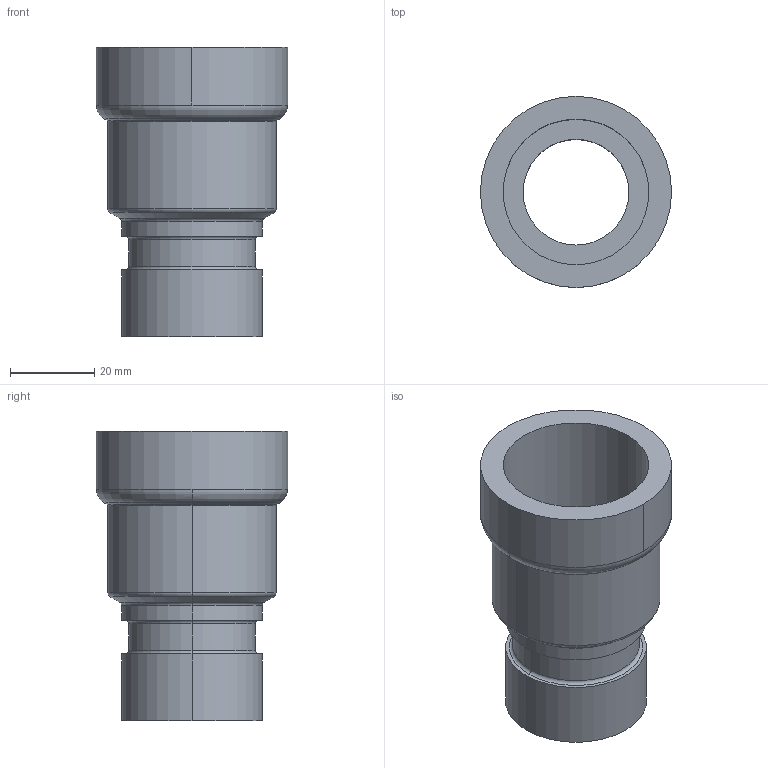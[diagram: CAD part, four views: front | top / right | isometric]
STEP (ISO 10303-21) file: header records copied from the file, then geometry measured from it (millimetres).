
FILE_DESCRIPTION(('Creo Elements/Direct Modeling STEP Export'),'2;1');
FILE_NAME('C9448_1.stp','2020-07-20T16:10:41',(''),(''),'PTC Creo Elements/Direct Modeling STEP processor for AP214 (Solid Model)','PTC Creo Elements/Direct Modeling 19.0C 15-Aug-2015 (C) Parametric Technology GmbH','');
FILE_SCHEMA(('AUTOMOTIVE_DESIGN { 1 0 10303 214 1 1 1 1 }'));
Length unit declared in the file: millimetre
Products named in the file (2): C9448_1
Assembly tree (1 placements, depth 2):
  C9448_1
    C9448_1
Bounding box: 45.4 x 45.4 x 68.8 mm (x, y, z)
Volume: 29591.9 mm3; surface area: 16882.2 mm2
Topology: 1 solids, 1 shells, 35 faces, 72 edges, 42 vertices
Faces by surface type: cylinder 14, torus 12, plane 5, cone 4
Entity records: 875 total; most frequent: DIRECTION 156, ORIENTED_EDGE 144, CARTESIAN_POINT 129, EDGE_CURVE 72, AXIS2_PLACEMENT_3D 69, VERTEX_POINT 42, EDGE_LOOP 40, FACE_OUTER_BOUND 35
